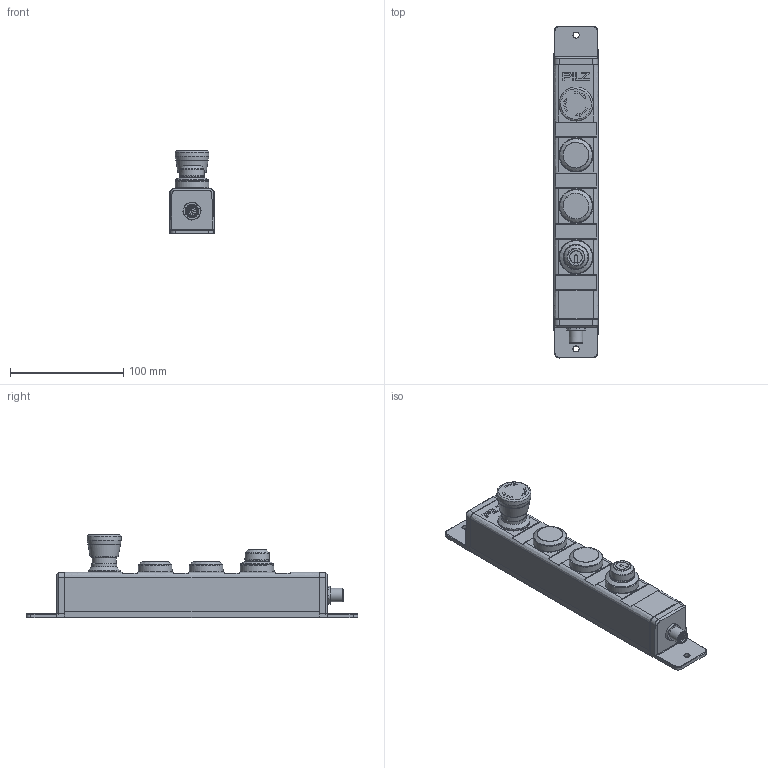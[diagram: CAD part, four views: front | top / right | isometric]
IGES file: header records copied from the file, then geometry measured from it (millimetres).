
Global section: file name: 2030187_B_PIT_gb_KLLE; native system: Autodesk Inventor 2020; preprocessor: unknown; author: ES-PE; date: 20210415.152158; units: millimetre
Bounding box: 40 x 293 x 73.68 mm (x, y, z)
Volume: 424071.8 mm3; surface area: 61450.3 mm2
Topology: 8 solids, 8 shells, 602 faces, 1510 edges, 980 vertices
Faces by surface type: bspline 602
